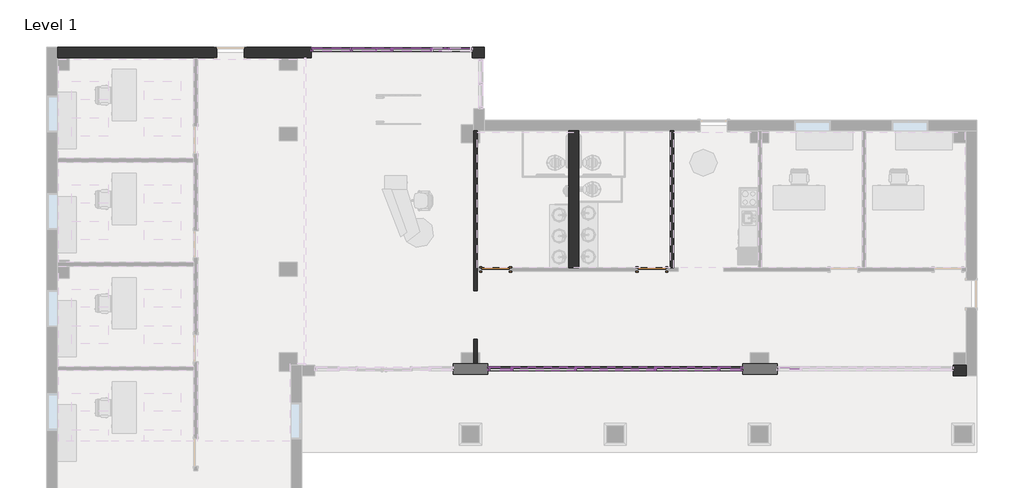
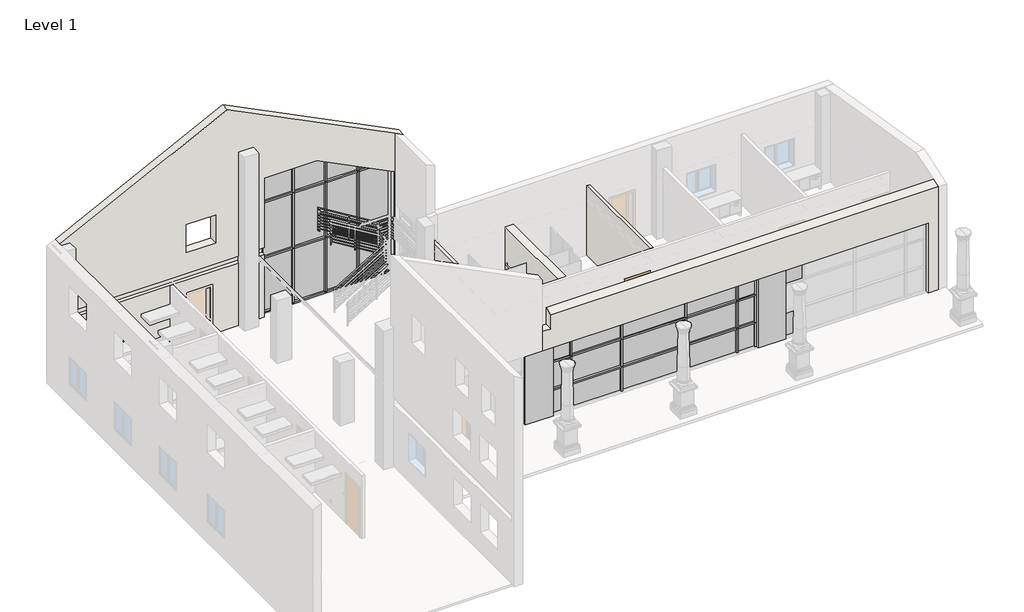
# One storey, part 2 of 8: 61 members, 31 plates, 6 walls, 2 doors.
"""IFC4 building model written with IfcOpenShell, lengths in millimetres."""

from ifc_helpers import new_model, si_unit, origin, origin_with_axes, place, context, project, spatial, polyline, outline, extrude, faceted_brep, transform, mapped, element, save
from components import door_eb9f8b14, door_88503111, member_a715cb85, member_2b49869a, member_4f1c84db, member_e69b4e5a, member_c7c5a8a0, member_13dc6413, member_3374d9b6, member_830c086e, member_f0fea5a5, member_ee409385, member_d635bea1, member_5783932f, member_ba1b3d85, member_98b79ab6, member_badecc6f, member_398e82c5, member_3ca69e07, member_e8e44c72, member_143c79e4, member_374c6745, member_8bab0767, member_1c7aa2bc, member_f444ca48, member_5247cb20, system_panel_glazed_93fe6fa7, system_panel_glazed_6ce5e085, system_panel_glazed_63f474c4, system_panel_glazed_4b691734, system_panel_glazed_53b4157c, system_panel_glazed_7b5ce646, system_panel_glazed_2dd6ead6, system_panel_glazed_6caac039, system_panel_glazed_878f6614, system_panel_glazed_8dfcc79d, system_panel_glazed_ef97d2b3, system_panel_glazed_c584759f, system_panel_glazed_aff2306c, system_panel_glazed_6eaeb95c, system_panel_glazed_87e5606a, system_panel_glazed_8c70cf02, system_panel_solid_6039f36e, system_panel_solid_0ed6c75d

model = new_model("IFC4")

# Units and contexts
model_context = context("Model", 3, world=origin())
ifc_project = project(units=[si_unit("LENGTHUNIT", "METRE", prefix="MILLI")], contexts=[model_context])

# Site, building, storey
site = spatial("IfcSite", under=ifc_project)
building = spatial("IfcBuilding", under=site)
storey = spatial("IfcBuildingStorey", under=building, Name="Level 1", Elevation=0.0)

# Doors
placement = place(None, origin())
door_shape = door_eb9f8b14(model_context)
element("IfcDoor", 1, ObjectType="Single-Flush : 36\" x 84\"", at=placement, inside=storey, context=model_context, shape_type="MappedRepresentation", body=[
    mapped(door_shape, transform((1075.2733448, 3496.4480424, 0.0), x_axis=(-1.0, 0.0, 0.0), y_axis=(0.0, -1.0, 0.0), z_axis=(0.0, 0.0, 1.0))),
])
door_2_shape = door_88503111(model_context)
element("IfcDoor", 2, ObjectType="Single-Flush : 36\" x 84\"", at=placement, inside=storey, context=model_context, shape_type="MappedRepresentation", body=[
    mapped(door_2_shape, transform((6294.9733448, 3496.4480424, 0.0), x_axis=(1.0, 0.0, 0.0), y_axis=(0.0, 1.0, 0.0), z_axis=(0.0, 0.0, 1.0))),
])

# Members
member_shape = member_a715cb85(model_context)
element("IfcMember", 3, ObjectType="Rectangular Mullion : 2.5\" x 5\" Rectangular", at=placement, inside=storey, context=model_context, shape_type="MappedRepresentation", body=[
    mapped(member_shape, transform((1611.8483448, 175.3980424, 0.0), x_axis=(1.0, 0.0, 0.0), y_axis=(0.0, -1.0, 0.0), z_axis=(0.0, 0.0, -1.0))),
])
element("IfcMember", 4, ObjectType="Rectangular Mullion : 2.5\" x 5\" Rectangular", at=placement, inside=storey, context=model_context, shape_type="MappedRepresentation", body=[
    mapped(member_shape, transform((3745.4483448, 175.3980424, 0.0), x_axis=(1.0, 0.0, 0.0), y_axis=(0.0, -1.0, 0.0), z_axis=(0.0, 0.0, -1.0))),
])
element("IfcMember", 5, ObjectType="Rectangular Mullion : 2.5\" x 5\" Rectangular", at=placement, inside=storey, context=model_context, shape_type="MappedRepresentation", body=[
    mapped(member_shape, transform((6404.5108448, 175.3980424, 0.0), x_axis=(1.0, 0.0, 0.0), y_axis=(0.0, -1.0, 0.0), z_axis=(0.0, 0.0, -1.0))),
])
element("IfcMember", 6, ObjectType="Rectangular Mullion : 2.5\" x 5\" Rectangular", at=placement, inside=storey, context=model_context, shape_type="MappedRepresentation", body=[
    mapped(member_shape, transform((849.8483448, 175.3980424, 0.0), x_axis=(1.0, 0.0, 0.0), y_axis=(0.0, -1.0, 0.0), z_axis=(0.0, 0.0, -1.0))),
])
element("IfcMember", 7, ObjectType="Rectangular Mullion : 2.5\" x 5\" Rectangular", at=placement, inside=storey, context=model_context, shape_type="MappedRepresentation", body=[
    mapped(member_shape, transform((8538.1108448, 175.3980424, 0.0), x_axis=(1.0, 0.0, 0.0), y_axis=(0.0, -1.0, 0.0), z_axis=(0.0, 0.0, -1.0))),
])
element("IfcMember", 8, ObjectType="Rectangular Mullion : 2.5\" x 5\" Rectangular", at=placement, inside=storey, context=model_context, shape_type="MappedRepresentation", body=[
    mapped(member_shape, transform((9300.1108448, 175.3980424, 0.0), x_axis=(1.0, 0.0, 0.0), y_axis=(0.0, -1.0, 0.0), z_axis=(0.0, 0.0, -1.0))),
])
member_2_shape = member_2b49869a(model_context)
element("IfcMember", 9, ObjectType="Rectangular Mullion : 2.5\" x 5\" Rectangular", at=placement, inside=storey, context=model_context, shape_type="MappedRepresentation", body=[
    mapped(member_2_shape, transform((1611.8483448, 175.3980424, 1066.8), x_axis=(1.0, 0.0, 0.0), y_axis=(0.0, -1.0, 0.0), z_axis=(0.0, 0.0, -1.0))),
])
element("IfcMember", 10, ObjectType="Rectangular Mullion : 2.5\" x 5\" Rectangular", at=placement, inside=storey, context=model_context, shape_type="MappedRepresentation", body=[
    mapped(member_2_shape, transform((3745.4483448, 175.3980424, 1066.8), x_axis=(1.0, 0.0, 0.0), y_axis=(0.0, -1.0, 0.0), z_axis=(0.0, 0.0, -1.0))),
])
element("IfcMember", 11, ObjectType="Rectangular Mullion : 2.5\" x 5\" Rectangular", at=placement, inside=storey, context=model_context, shape_type="MappedRepresentation", body=[
    mapped(member_2_shape, transform((6404.5108448, 175.3980424, 1066.8), x_axis=(1.0, 0.0, 0.0), y_axis=(0.0, -1.0, 0.0), z_axis=(0.0, 0.0, -1.0))),
])
element("IfcMember", 12, ObjectType="Rectangular Mullion : 2.5\" x 5\" Rectangular", at=placement, inside=storey, context=model_context, shape_type="MappedRepresentation", body=[
    mapped(member_2_shape, transform((849.8483448, 175.3980424, 1066.8), x_axis=(1.0, 0.0, 0.0), y_axis=(0.0, -1.0, 0.0), z_axis=(0.0, 0.0, -1.0))),
])
element("IfcMember", 13, ObjectType="Rectangular Mullion : 2.5\" x 5\" Rectangular", at=placement, inside=storey, context=model_context, shape_type="MappedRepresentation", body=[
    mapped(member_2_shape, transform((8538.1108448, 175.3980424, 1066.8), x_axis=(1.0, 0.0, 0.0), y_axis=(0.0, -1.0, 0.0), z_axis=(0.0, 0.0, -1.0))),
])
element("IfcMember", 14, ObjectType="Rectangular Mullion : 2.5\" x 5\" Rectangular", at=placement, inside=storey, context=model_context, shape_type="MappedRepresentation", body=[
    mapped(member_2_shape, transform((9300.1108448, 175.3980424, 1066.8), x_axis=(1.0, 0.0, 0.0), y_axis=(0.0, -1.0, 0.0), z_axis=(0.0, 0.0, -1.0))),
])
member_3_shape = member_4f1c84db(model_context)
element("IfcMember", 15, ObjectType="Rectangular Mullion : 2.5\" x 5\" Rectangular", at=placement, inside=storey, context=model_context, shape_type="MappedRepresentation", body=[
    mapped(member_3_shape, transform((3713.6983448, 175.3980424, 2286.0), x_axis=(0.0, 0.0, 1.0), y_axis=(0.0, -1.0, 0.0), z_axis=(1.0, 0.0, 0.0))),
])
element("IfcMember", 16, ObjectType="Rectangular Mullion : 2.5\" x 5\" Rectangular", at=placement, inside=storey, context=model_context, shape_type="MappedRepresentation", body=[
    mapped(member_3_shape, transform((8506.3608448, 175.3980424, 2286.0), x_axis=(0.0, 0.0, 1.0), y_axis=(0.0, -1.0, 0.0), z_axis=(1.0, 0.0, 0.0))),
])
element("IfcMember", 17, ObjectType="Rectangular Mullion : 2.5\" x 5\" Rectangular", at=placement, inside=storey, context=model_context, shape_type="MappedRepresentation", body=[
    mapped(member_3_shape, transform((8506.3608448, 175.3980424, 1066.8), x_axis=(0.0, 0.0, 1.0), y_axis=(0.0, -1.0, 0.0), z_axis=(1.0, 0.0, 0.0))),
])
element("IfcMember", 18, ObjectType="Rectangular Mullion : 2.5\" x 5\" Rectangular", at=placement, inside=storey, context=model_context, shape_type="MappedRepresentation", body=[
    mapped(member_3_shape, transform((3713.6983448, 175.3980424, 1066.8), x_axis=(0.0, 0.0, 1.0), y_axis=(0.0, -1.0, 0.0), z_axis=(1.0, 0.0, 0.0))),
])
member_4_shape = member_e69b4e5a(model_context)
element("IfcMember", 19, ObjectType="Rectangular Mullion : 2.5\" x 5\" Rectangular", at=placement, inside=storey, context=model_context, shape_type="MappedRepresentation", body=[
    mapped(member_4_shape, transform((6372.7608448, 175.3980424, 2286.0), x_axis=(0.0, 0.0, 1.0), y_axis=(0.0, -1.0, 0.0), z_axis=(1.0, 0.0, 0.0))),
])
element("IfcMember", 20, ObjectType="Rectangular Mullion : 2.5\" x 5\" Rectangular", at=placement, inside=storey, context=model_context, shape_type="MappedRepresentation", body=[
    mapped(member_4_shape, transform((6372.7608448, 175.3980424, 1066.8), x_axis=(0.0, 0.0, 1.0), y_axis=(0.0, -1.0, 0.0), z_axis=(1.0, 0.0, 0.0))),
])
member_5_shape = member_c7c5a8a0(model_context)
element("IfcMember", 21, ObjectType="Rectangular Mullion : 2.5\" x 5\" Rectangular", at=placement, inside=storey, context=model_context, shape_type="MappedRepresentation", body=[
    mapped(member_5_shape, transform((1580.0983448, 175.3980424, 2286.0), x_axis=(0.0, 0.0, 1.0), y_axis=(0.0, -1.0, 0.0), z_axis=(1.0, 0.0, 0.0))),
])
element("IfcMember", 22, ObjectType="Rectangular Mullion : 2.5\" x 5\" Rectangular", at=placement, inside=storey, context=model_context, shape_type="MappedRepresentation", body=[
    mapped(member_5_shape, transform((9268.3608448, 175.3980424, 2286.0), x_axis=(0.0, 0.0, 1.0), y_axis=(0.0, -1.0, 0.0), z_axis=(1.0, 0.0, 0.0))),
])
element("IfcMember", 23, ObjectType="Rectangular Mullion : 2.5\" x 5\" Rectangular", at=placement, inside=storey, context=model_context, shape_type="MappedRepresentation", body=[
    mapped(member_5_shape, transform((1580.0983448, 175.3980424, 1066.8), x_axis=(0.0, 0.0, 1.0), y_axis=(0.0, -1.0, 0.0), z_axis=(1.0, 0.0, 0.0))),
])
element("IfcMember", 24, ObjectType="Rectangular Mullion : 2.5\" x 5\" Rectangular", at=placement, inside=storey, context=model_context, shape_type="MappedRepresentation", body=[
    mapped(member_5_shape, transform((9268.3608448, 175.3980424, 1066.8), x_axis=(0.0, 0.0, 1.0), y_axis=(0.0, -1.0, 0.0), z_axis=(1.0, 0.0, 0.0))),
])
member_6_shape = member_13dc6413(model_context)
element("IfcMember", 25, ObjectType="Rectangular Mullion : 2.5\" x 5\" Rectangular", at=placement, inside=storey, context=model_context, shape_type="MappedRepresentation", body=[
    mapped(member_6_shape, transform((9331.8608448, 175.3980424, 3060.0), x_axis=(0.0, 0.0, 1.0), y_axis=(0.0, -1.0, 0.0), z_axis=(1.0, 0.0, 0.0))),
])
element("IfcMember", 26, ObjectType="Rectangular Mullion : 2.5\" x 5\" Rectangular", at=placement, inside=storey, context=model_context, shape_type="MappedRepresentation", body=[
    mapped(member_6_shape, transform((1611.8483448, 175.3980424, 3060.0), x_axis=(0.0, 0.0, 1.0), y_axis=(0.0, -1.0, 0.0), z_axis=(1.0, 0.0, 0.0))),
])
member_7_shape = member_3374d9b6(model_context)
element("IfcMember", 27, ObjectType="Rectangular Mullion : 2.5\" x 5\" Rectangular", at=placement, inside=storey, context=model_context, shape_type="MappedRepresentation", body=[
    mapped(member_7_shape, transform((3745.4483448, 175.3980424, 3060.0), x_axis=(0.0, 0.0, 1.0), y_axis=(0.0, -1.0, 0.0), z_axis=(1.0, 0.0, 0.0))),
])
element("IfcMember", 28, ObjectType="Rectangular Mullion : 2.5\" x 5\" Rectangular", at=placement, inside=storey, context=model_context, shape_type="MappedRepresentation", body=[
    mapped(member_7_shape, transform((8538.1108448, 175.3980424, 3060.0), x_axis=(0.0, 0.0, 1.0), y_axis=(0.0, -1.0, 0.0), z_axis=(1.0, 0.0, 0.0))),
])
member_8_shape = member_830c086e(model_context)
element("IfcMember", 29, ObjectType="Rectangular Mullion : 2.5\" x 5\" Rectangular", at=placement, inside=storey, context=model_context, shape_type="MappedRepresentation", body=[
    mapped(member_8_shape, transform((6404.5108448, 175.3980424, 3060.0), x_axis=(0.0, 0.0, 1.0), y_axis=(0.0, -1.0, 0.0), z_axis=(1.0, 0.0, 0.0))),
])
member_9_shape = member_f0fea5a5(model_context)
element("IfcMember", 30, ObjectType="Rectangular Mullion : 2.5\" x 5\" Rectangular", at=placement, inside=storey, context=model_context, shape_type="MappedRepresentation", body=[
    mapped(member_9_shape, transform((-3747.5516552, 10846.5730424, 0.0), x_axis=(1.0, 0.0, 0.0), y_axis=(0.0, -1.0, 0.0), z_axis=(0.0, 0.0, -1.0))),
])
element("IfcMember", 31, ObjectType="Rectangular Mullion : 2.5\" x 5\" Rectangular", at=placement, inside=storey, context=model_context, shape_type="MappedRepresentation", body=[
    mapped(member_9_shape, transform((-2401.3516552, 10846.5730424, 0.0), x_axis=(1.0, 0.0, 0.0), y_axis=(0.0, -1.0, 0.0), z_axis=(0.0, 0.0, -1.0))),
])
element("IfcMember", 32, ObjectType="Rectangular Mullion : 2.5\" x 5\" Rectangular", at=placement, inside=storey, context=model_context, shape_type="MappedRepresentation", body=[
    mapped(member_9_shape, transform((-1055.1516552, 10846.5730424, 0.0), x_axis=(1.0, 0.0, 0.0), y_axis=(0.0, -1.0, 0.0), z_axis=(0.0, 0.0, -1.0))),
])
member_10_shape = member_ee409385(model_context)
element("IfcMember", 33, ObjectType="Rectangular Mullion : 2.5\" x 5\" Rectangular", at=placement, inside=storey, context=model_context, shape_type="MappedRepresentation", body=[
    mapped(member_10_shape, transform((-5093.7516552, 10846.5730424, 2438.4), x_axis=(-1.0, 0.0, 0.0), y_axis=(0.0, -1.0, 0.0), z_axis=(0.0, 0.0, 1.0))),
])
member_11_shape = member_d635bea1(model_context)
element("IfcMember", 34, ObjectType="Rectangular Mullion : 2.5\" x 5\" Rectangular", at=placement, inside=storey, context=model_context, shape_type="MappedRepresentation", body=[
    mapped(member_11_shape, transform((-5030.2516552, 10846.5730424, 0.0), x_axis=(0.0, 0.0, -1.0), y_axis=(0.0, -1.0, 0.0), z_axis=(-1.0, 0.0, 0.0))),
])
element("IfcMember", 35, ObjectType="Rectangular Mullion : 2.5\" x 5\" Rectangular", at=placement, inside=storey, context=model_context, shape_type="MappedRepresentation", body=[
    mapped(member_11_shape, transform((-1023.4016552, 10846.5730424, 0.0), x_axis=(0.0, 0.0, -1.0), y_axis=(0.0, -1.0, 0.0), z_axis=(-1.0, 0.0, 0.0))),
])
member_12_shape = member_5783932f(model_context)
element("IfcMember", 36, ObjectType="Rectangular Mullion : 2.5\" x 5\" Rectangular", at=placement, inside=storey, context=model_context, shape_type="MappedRepresentation", body=[
    mapped(member_12_shape, transform((-3715.8016552, 10846.5730424, 0.0), x_axis=(0.0, 0.0, -1.0), y_axis=(0.0, -1.0, 0.0), z_axis=(-1.0, 0.0, 0.0))),
])
element("IfcMember", 37, ObjectType="Rectangular Mullion : 2.5\" x 5\" Rectangular", at=placement, inside=storey, context=model_context, shape_type="MappedRepresentation", body=[
    mapped(member_12_shape, transform((-2369.6016552, 10846.5730424, 0.0), x_axis=(0.0, 0.0, -1.0), y_axis=(0.0, -1.0, 0.0), z_axis=(-1.0, 0.0, 0.0))),
])
member_13_shape = member_ba1b3d85(model_context)
element("IfcMember", 38, ObjectType="Rectangular Mullion : 2.5\" x 5\" Rectangular", at=placement, inside=storey, context=model_context, shape_type="MappedRepresentation", body=[
    mapped(member_13_shape, transform((-3779.3016552, 10846.5730424, 2438.4), x_axis=(0.0, 0.0, 1.0), y_axis=(0.0, -1.0, 0.0), z_axis=(1.0, 0.0, 0.0))),
])
element("IfcMember", 39, ObjectType="Rectangular Mullion : 2.5\" x 5\" Rectangular", at=placement, inside=storey, context=model_context, shape_type="MappedRepresentation", body=[
    mapped(member_13_shape, transform((-3779.3016552, 10846.5730424, 4876.8), x_axis=(0.0, 0.0, 1.0), y_axis=(0.0, -1.0, 0.0), z_axis=(1.0, 0.0, 0.0))),
])
member_14_shape = member_98b79ab6(model_context)
element("IfcMember", 40, ObjectType="Rectangular Mullion : 2.5\" x 5\" Rectangular", at=placement, inside=storey, context=model_context, shape_type="MappedRepresentation", body=[
    mapped(member_14_shape, transform((-2433.1016552, 10846.5730424, 2438.4), x_axis=(0.0, 0.0, 1.0), y_axis=(0.0, -1.0, 0.0), z_axis=(1.0, 0.0, 0.0))),
])
element("IfcMember", 41, ObjectType="Rectangular Mullion : 2.5\" x 5\" Rectangular", at=placement, inside=storey, context=model_context, shape_type="MappedRepresentation", body=[
    mapped(member_14_shape, transform((-1086.9016552, 10846.5730424, 2438.4), x_axis=(0.0, 0.0, 1.0), y_axis=(0.0, -1.0, 0.0), z_axis=(1.0, 0.0, 0.0))),
])
element("IfcMember", 42, ObjectType="Rectangular Mullion : 2.5\" x 5\" Rectangular", at=placement, inside=storey, context=model_context, shape_type="MappedRepresentation", body=[
    mapped(member_14_shape, transform((-2433.1016552, 10846.5730424, 4876.8), x_axis=(0.0, 0.0, 1.0), y_axis=(0.0, -1.0, 0.0), z_axis=(1.0, 0.0, 0.0))),
])
element("IfcMember", 43, ObjectType="Rectangular Mullion : 2.5\" x 5\" Rectangular", at=placement, inside=storey, context=model_context, shape_type="MappedRepresentation", body=[
    mapped(member_14_shape, transform((-1086.9016552, 10846.5730424, 4876.8), x_axis=(0.0, 0.0, 1.0), y_axis=(0.0, -1.0, 0.0), z_axis=(1.0, 0.0, 0.0))),
])
element("IfcMember", 44, ObjectType="Rectangular Mullion : 2.5\" x 5\" Rectangular", at=placement, inside=storey, context=model_context, shape_type="MappedRepresentation", body=[
    mapped(member_11_shape, transform((-3779.3016552, 10846.5730424, 6108.0), x_axis=(0.0, 0.0, 1.0), y_axis=(0.0, -1.0, 0.0), z_axis=(1.0, 0.0, 0.0))),
])
element("IfcMember", 45, ObjectType="Rectangular Mullion : 2.5\" x 5\" Rectangular", at=placement, inside=storey, context=model_context, shape_type="MappedRepresentation", body=[
    mapped(member_9_shape, transform((-3747.5516552, 10846.5730424, 2438.4), x_axis=(1.0, 0.0, 0.0), y_axis=(0.0, -1.0, 0.0), z_axis=(0.0, 0.0, -1.0))),
])
element("IfcMember", 46, ObjectType="Rectangular Mullion : 2.5\" x 5\" Rectangular", at=placement, inside=storey, context=model_context, shape_type="MappedRepresentation", body=[
    mapped(member_9_shape, transform((-2401.3516552, 10846.5730424, 2438.4), x_axis=(1.0, 0.0, 0.0), y_axis=(0.0, -1.0, 0.0), z_axis=(0.0, 0.0, -1.0))),
])
element("IfcMember", 47, ObjectType="Rectangular Mullion : 2.5\" x 5\" Rectangular", at=placement, inside=storey, context=model_context, shape_type="MappedRepresentation", body=[
    mapped(member_9_shape, transform((-1055.1516552, 10846.5730424, 2438.4), x_axis=(1.0, 0.0, 0.0), y_axis=(0.0, -1.0, 0.0), z_axis=(0.0, 0.0, -1.0))),
])
element("IfcMember", 48, ObjectType="Rectangular Mullion : 2.5\" x 5\" Rectangular", at=placement, inside=storey, context=model_context, shape_type="MappedRepresentation", body=[
    mapped(member_10_shape, transform((-5093.7516552, 10846.5730424, 4876.8), x_axis=(-1.0, 0.0, 0.0), y_axis=(0.0, -1.0, 0.0), z_axis=(0.0, 0.0, 1.0))),
])
member_15_shape = member_badecc6f(model_context)
element("IfcMember", 49, ObjectType="Rectangular Mullion : 2.5\" x 5\" Rectangular", at=placement, inside=storey, context=model_context, shape_type="MappedRepresentation", body=[
    mapped(member_15_shape, transform((-2900.8192529, 10846.5730424, 6108.0), x_axis=(0.0, 0.0, 1.0), y_axis=(0.0, -1.0, 0.0), z_axis=(1.0, 0.0, 0.0))),
])
member_16_shape = member_398e82c5(model_context)
element("IfcMember", 50, ObjectType="Rectangular Mullion : 2.5\" x 5\" Rectangular", at=placement, inside=storey, context=model_context, shape_type="MappedRepresentation", body=[
    mapped(member_16_shape, transform((-2401.3516552, 10846.5730424, 5858.2662011), x_axis=(0.4472135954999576, 0.0, 0.8944271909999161), y_axis=(0.0, -1.0, 0.0), z_axis=(0.8944271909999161, 0.0, -0.4472135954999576))),
])
member_17_shape = member_3ca69e07(model_context)
element("IfcMember", 51, ObjectType="Rectangular Mullion : 2.5\" x 5\" Rectangular", at=placement, inside=storey, context=model_context, shape_type="MappedRepresentation", body=[
    mapped(member_17_shape, transform((1611.8483448, 175.3980424, 2286.0), x_axis=(1.0, 0.0, 0.0), y_axis=(0.0, -1.0, 0.0), z_axis=(0.0, 0.0, -1.0))),
])
element("IfcMember", 52, ObjectType="Rectangular Mullion : 2.5\" x 5\" Rectangular", at=placement, inside=storey, context=model_context, shape_type="MappedRepresentation", body=[
    mapped(member_17_shape, transform((3745.4483448, 175.3980424, 2286.0), x_axis=(1.0, 0.0, 0.0), y_axis=(0.0, -1.0, 0.0), z_axis=(0.0, 0.0, -1.0))),
])
element("IfcMember", 53, ObjectType="Rectangular Mullion : 2.5\" x 5\" Rectangular", at=placement, inside=storey, context=model_context, shape_type="MappedRepresentation", body=[
    mapped(member_17_shape, transform((6404.5108448, 175.3980424, 2286.0), x_axis=(1.0, 0.0, 0.0), y_axis=(0.0, -1.0, 0.0), z_axis=(0.0, 0.0, -1.0))),
])
element("IfcMember", 54, ObjectType="Rectangular Mullion : 2.5\" x 5\" Rectangular", at=placement, inside=storey, context=model_context, shape_type="MappedRepresentation", body=[
    mapped(member_17_shape, transform((849.8483448, 175.3980424, 2286.0), x_axis=(1.0, 0.0, 0.0), y_axis=(0.0, -1.0, 0.0), z_axis=(0.0, 0.0, -1.0))),
])
element("IfcMember", 55, ObjectType="Rectangular Mullion : 2.5\" x 5\" Rectangular", at=placement, inside=storey, context=model_context, shape_type="MappedRepresentation", body=[
    mapped(member_17_shape, transform((8538.1108448, 175.3980424, 2286.0), x_axis=(1.0, 0.0, 0.0), y_axis=(0.0, -1.0, 0.0), z_axis=(0.0, 0.0, -1.0))),
])
element("IfcMember", 56, ObjectType="Rectangular Mullion : 2.5\" x 5\" Rectangular", at=placement, inside=storey, context=model_context, shape_type="MappedRepresentation", body=[
    mapped(member_17_shape, transform((9300.1108448, 175.3980424, 2286.0), x_axis=(1.0, 0.0, 0.0), y_axis=(0.0, -1.0, 0.0), z_axis=(0.0, 0.0, -1.0))),
])
member_18_shape = member_e8e44c72(model_context)
element("IfcMember", 57, ObjectType="Rectangular Mullion : 2.5\" x 5\" Rectangular", at=placement, inside=storey, context=model_context, shape_type="MappedRepresentation", body=[
    mapped(member_18_shape, transform((-3747.5516552, 10846.5730424, 4876.8), x_axis=(1.0, 0.0, 0.0), y_axis=(0.0, -1.0, 0.0), z_axis=(0.0, 0.0, -1.0))),
])
member_19_shape = member_143c79e4(model_context)
element("IfcMember", 58, ObjectType="Rectangular Mullion : 2.5\" x 5\" Rectangular", at=placement, inside=storey, context=model_context, shape_type="MappedRepresentation", body=[
    mapped(member_19_shape, transform((-2401.3516552, 10846.5730424, 4876.8), x_axis=(1.0, 0.0, 0.0), y_axis=(0.0, -1.0, 0.0), z_axis=(0.0, 0.0, -1.0))),
])
member_20_shape = member_374c6745(model_context)
element("IfcMember", 59, ObjectType="Rectangular Mullion : 2.5\" x 5\" Rectangular", at=placement, inside=storey, context=model_context, shape_type="MappedRepresentation", body=[
    mapped(member_20_shape, transform((-1055.1516552, 10846.5730424, 4876.8), x_axis=(1.0, 0.0, 0.0), y_axis=(0.0, -1.0, 0.0), z_axis=(0.0, 0.0, -1.0))),
])
member_21_shape = member_8bab0767(model_context)
element("IfcMember", 60, ObjectType="Rectangular Mullion : 2.5\" x 5\" Rectangular", at=placement, inside=storey, context=model_context, shape_type="MappedRepresentation", body=[
    mapped(member_21_shape, transform((-438.4192529, 10846.5730424, 4876.8), x_axis=(0.0, 0.0, 1.0), y_axis=(0.0, -1.0, 0.0), z_axis=(1.0, 0.0, 0.0))),
])
member_22_shape = member_1c7aa2bc(model_context)
element("IfcMember", 61, ObjectType="Rectangular Mullion : 2.5\" x 5\" Rectangular", at=placement, inside=storey, context=model_context, shape_type="MappedRepresentation", body=[
    mapped(member_22_shape, transform((-1055.1516552, 10846.5730424, 5185.1662011), x_axis=(0.44721359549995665, 0.0, 0.8944271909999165), y_axis=(0.0, -1.0, 0.0), z_axis=(0.8944271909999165, 0.0, -0.44721359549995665))),
])
member_23_shape = member_f444ca48(model_context)
element("IfcMember", 62, ObjectType="Rectangular Mullion : 2.5\" x 5\" Rectangular", at=placement, inside=storey, context=model_context, shape_type="MappedRepresentation", body=[
    mapped(member_23_shape, transform((-438.4192529, 10846.5730424, 4876.8), x_axis=(0.4472135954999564, 0.0, 0.8944271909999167), y_axis=(0.0, -1.0, 0.0), z_axis=(0.8944271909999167, 0.0, -0.4472135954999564))),
])
member_24_shape = member_5247cb20(model_context)
element("IfcMember", 63, ObjectType="Rectangular Mullion : 2.5\" x 5\" Rectangular", at=placement, inside=storey, context=model_context, shape_type="MappedRepresentation", body=[
    mapped(member_24_shape, transform((-5093.7516552, 10846.5730424, 6108.0), x_axis=(-1.0, 0.0, 0.0), y_axis=(0.0, -1.0, 0.0), z_axis=(0.0, 0.0, 1.0))),
])

# Plates
element("IfcPlate", 64, ObjectType="Exterior - Brick on Mtl. Stud", at=placement, inside=storey, context=model_context, shape_type="Brep", body=[
    faceted_brep([(-337.6016552, -0.8144576, 0.0), (818.0983448, -0.8144576, 0.0), (818.0983448, -0.8144576, 3060.0), (-337.6016552, -0.8144576, 3060.0), (-337.6016552, 351.6105424, 0.0), (-337.6016552, 351.6105424, 3060.0), (-67.7266552, 351.6105424, 3060.0), (341.8483448, 351.6105424, 3060.0), (465.6733448, 351.6105424, 3060.0), (541.8733448, 351.6105424, 3060.0), (818.0983448, 351.6105424, 3060.0), (818.0983448, 351.6105424, 0.0), (541.8733448, 351.6105424, 0.0), (465.6733448, 351.6105424, 0.0), (341.8483448, 351.6105424, 0.0), (-67.7266552, 351.6105424, 0.0)], [[[0, 1, 2, 3]], [[4, 5, 6, 7, 8, 9, 10, 11, 12, 13, 14, 15]], [[1, 0, 4, 15, 14, 13, 12, 11]], [[2, 1, 11, 10]], [[3, 2, 10, 9, 8, 7, 6, 5]], [[0, 3, 5, 4]]]),
])
element("IfcPlate", 65, ObjectType="Exterior - Brick on Mtl. Stud", at=placement, inside=storey, context=model_context, shape_type="Brep", body=[
    faceted_brep([(9331.8608448, -0.8144576, 0.0), (10487.5608448, -0.8144576, 0.0), (10487.5608448, -0.8144576, 3060.0), (9331.8608448, -0.8144576, 3060.0), (9331.8608448, 351.6105424, 0.0), (9331.8608448, 351.6105424, 3060.0), (9587.4483448, 351.6105424, 3060.0), (10197.0483448, 351.6105424, 3060.0), (10487.5608448, 351.6105424, 3060.0), (10487.5608448, 351.6105424, 0.0), (10197.0483448, 351.6105424, 0.0), (9587.4483448, 351.6105424, 0.0)], [[[0, 1, 2, 3]], [[4, 5, 6, 7, 8, 9, 10, 11]], [[1, 0, 4, 11, 10, 9]], [[2, 1, 9, 8]], [[3, 2, 8, 7, 6, 5]], [[0, 3, 5, 4]]]),
])
system_panel_glazed_shape = system_panel_glazed_93fe6fa7(model_context)
element("IfcPlate", 66, ObjectType="System Panel : Glazed", at=placement, inside=storey, context=model_context, shape_type="MappedRepresentation", body=[
    mapped(system_panel_glazed_shape, transform((2678.6483448, 175.3980424, 0.0), x_axis=(1.0, 0.0, 0.0), y_axis=(0.0, 1.0, 0.0), z_axis=(0.0, 0.0, 1.0))),
])
element("IfcPlate", 67, ObjectType="System Panel : Glazed", at=placement, inside=storey, context=model_context, shape_type="MappedRepresentation", body=[
    mapped(system_panel_glazed_shape, transform((7471.3108448, 175.3980424, 0.0), x_axis=(1.0, 0.0, 0.0), y_axis=(0.0, 1.0, 0.0), z_axis=(0.0, 0.0, 1.0))),
])
system_panel_glazed_2_shape = system_panel_glazed_6ce5e085(model_context)
element("IfcPlate", 68, ObjectType="System Panel : Glazed", at=placement, inside=storey, context=model_context, shape_type="MappedRepresentation", body=[
    mapped(system_panel_glazed_2_shape, transform((2678.6483448, 175.3980424, 1098.55), x_axis=(1.0, 0.0, 0.0), y_axis=(0.0, 1.0, 0.0), z_axis=(0.0, 0.0, 1.0))),
])
element("IfcPlate", 69, ObjectType="System Panel : Glazed", at=placement, inside=storey, context=model_context, shape_type="MappedRepresentation", body=[
    mapped(system_panel_glazed_2_shape, transform((7471.3108448, 175.3980424, 1098.55), x_axis=(1.0, 0.0, 0.0), y_axis=(0.0, 1.0, 0.0), z_axis=(0.0, 0.0, 1.0))),
])
system_panel_glazed_3_shape = system_panel_glazed_63f474c4(model_context)
element("IfcPlate", 70, ObjectType="System Panel : Glazed", at=placement, inside=storey, context=model_context, shape_type="MappedRepresentation", body=[
    mapped(system_panel_glazed_3_shape, transform((5074.9795948, 175.3980424, 0.0), x_axis=(1.0, 0.0, 0.0), y_axis=(0.0, 1.0, 0.0), z_axis=(0.0, 0.0, 1.0))),
])
system_panel_glazed_4_shape = system_panel_glazed_4b691734(model_context)
element("IfcPlate", 71, ObjectType="System Panel : Glazed", at=placement, inside=storey, context=model_context, shape_type="MappedRepresentation", body=[
    mapped(system_panel_glazed_4_shape, transform((5074.9795948, 175.3980424, 1098.55), x_axis=(1.0, 0.0, 0.0), y_axis=(0.0, 1.0, 0.0), z_axis=(0.0, 0.0, 1.0))),
])
system_panel_glazed_5_shape = system_panel_glazed_53b4157c(model_context)
element("IfcPlate", 72, ObjectType="System Panel : Glazed", at=placement, inside=storey, context=model_context, shape_type="MappedRepresentation", body=[
    mapped(system_panel_glazed_5_shape, transform((1230.8483448, 175.3980424, 0.0), x_axis=(1.0, 0.0, 0.0), y_axis=(0.0, 1.0, 0.0), z_axis=(0.0, 0.0, 1.0))),
])
element("IfcPlate", 73, ObjectType="System Panel : Glazed", at=placement, inside=storey, context=model_context, shape_type="MappedRepresentation", body=[
    mapped(system_panel_glazed_5_shape, transform((10900.3108448, 175.3980424, 0.0), x_axis=(1.0, 0.0, 0.0), y_axis=(0.0, 1.0, 0.0), z_axis=(0.0, 0.0, 1.0))),
])
element("IfcPlate", 74, ObjectType="System Panel : Glazed", at=placement, inside=storey, context=model_context, shape_type="MappedRepresentation", body=[
    mapped(system_panel_glazed_5_shape, transform((8919.1108448, 175.3980424, 0.0), x_axis=(1.0, 0.0, 0.0), y_axis=(0.0, 1.0, 0.0), z_axis=(0.0, 0.0, 1.0))),
])
system_panel_glazed_6_shape = system_panel_glazed_7b5ce646(model_context)
element("IfcPlate", 75, ObjectType="System Panel : Glazed", at=placement, inside=storey, context=model_context, shape_type="MappedRepresentation", body=[
    mapped(system_panel_glazed_6_shape, transform((1230.8483448, 175.3980424, 1098.55), x_axis=(1.0, 0.0, 0.0), y_axis=(0.0, 1.0, 0.0), z_axis=(0.0, 0.0, 1.0))),
])
element("IfcPlate", 76, ObjectType="System Panel : Glazed", at=placement, inside=storey, context=model_context, shape_type="MappedRepresentation", body=[
    mapped(system_panel_glazed_6_shape, transform((8919.1108448, 175.3980424, 1098.55), x_axis=(1.0, 0.0, 0.0), y_axis=(0.0, 1.0, 0.0), z_axis=(0.0, 0.0, 1.0))),
])
system_panel_glazed_7_shape = system_panel_glazed_2dd6ead6(model_context)
element("IfcPlate", 77, ObjectType="System Panel : Glazed", at=placement, inside=storey, context=model_context, shape_type="MappedRepresentation", body=[
    mapped(system_panel_glazed_7_shape, transform((-4404.7766552, 10846.5730424, 63.5), x_axis=(1.0, 0.0, 0.0), y_axis=(0.0, 1.0, 0.0), z_axis=(0.0, 0.0, 1.0))),
])
element("IfcPlate", 78, ObjectType="System Panel : Glazed", at=placement, inside=storey, context=model_context, shape_type="MappedRepresentation", body=[
    mapped(system_panel_glazed_7_shape, transform((-397.9266552, 10846.5730424, 63.5), x_axis=(1.0, 0.0, 0.0), y_axis=(0.0, 1.0, 0.0), z_axis=(0.0, 0.0, 1.0))),
])
system_panel_glazed_8_shape = system_panel_glazed_6caac039(model_context)
element("IfcPlate", 79, ObjectType="System Panel : Glazed", at=placement, inside=storey, context=model_context, shape_type="MappedRepresentation", body=[
    mapped(system_panel_glazed_8_shape, transform((-3074.4516552, 10846.5730424, 63.5), x_axis=(1.0, 0.0, 0.0), y_axis=(0.0, 1.0, 0.0), z_axis=(0.0, 0.0, 1.0))),
])
element("IfcPlate", 80, ObjectType="System Panel : Glazed", at=placement, inside=storey, context=model_context, shape_type="MappedRepresentation", body=[
    mapped(system_panel_glazed_8_shape, transform((-1728.2516552, 10846.5730424, 63.5), x_axis=(1.0, 0.0, 0.0), y_axis=(0.0, 1.0, 0.0), z_axis=(0.0, 0.0, 1.0))),
])
system_panel_glazed_9_shape = system_panel_glazed_878f6614(model_context)
element("IfcPlate", 81, ObjectType="System Panel : Glazed", at=placement, inside=storey, context=model_context, shape_type="MappedRepresentation", body=[
    mapped(system_panel_glazed_9_shape, transform((-4404.7766552, 10846.5730424, 2470.15), x_axis=(1.0, 0.0, 0.0), y_axis=(0.0, 1.0, 0.0), z_axis=(0.0, 0.0, 1.0))),
])
system_panel_glazed_10_shape = system_panel_glazed_8dfcc79d(model_context)
element("IfcPlate", 82, ObjectType="System Panel : Glazed", at=placement, inside=storey, context=model_context, shape_type="MappedRepresentation", body=[
    mapped(system_panel_glazed_10_shape, transform((-3074.4516552, 10846.5730424, 2470.15), x_axis=(1.0, 0.0, 0.0), y_axis=(0.0, 1.0, 0.0), z_axis=(0.0, 0.0, 1.0))),
])
element("IfcPlate", 83, ObjectType="System Panel : Glazed", at=placement, inside=storey, context=model_context, shape_type="MappedRepresentation", body=[
    mapped(system_panel_glazed_10_shape, transform((-1728.2516552, 10846.5730424, 2470.15), x_axis=(1.0, 0.0, 0.0), y_axis=(0.0, 1.0, 0.0), z_axis=(0.0, 0.0, 1.0))),
])
system_panel_glazed_11_shape = system_panel_glazed_ef97d2b3(model_context)
element("IfcPlate", 84, ObjectType="System Panel : Glazed", at=placement, inside=storey, context=model_context, shape_type="MappedRepresentation", body=[
    mapped(system_panel_glazed_11_shape, transform((2678.6483448, 175.3980424, 2317.75), x_axis=(1.0, 0.0, 0.0), y_axis=(0.0, 1.0, 0.0), z_axis=(0.0, 0.0, 1.0))),
])
element("IfcPlate", 85, ObjectType="System Panel : Glazed", at=placement, inside=storey, context=model_context, shape_type="MappedRepresentation", body=[
    mapped(system_panel_glazed_11_shape, transform((7471.3108448, 175.3980424, 2317.75), x_axis=(1.0, 0.0, 0.0), y_axis=(0.0, 1.0, 0.0), z_axis=(0.0, 0.0, 1.0))),
])
system_panel_glazed_12_shape = system_panel_glazed_c584759f(model_context)
element("IfcPlate", 86, ObjectType="System Panel : Glazed", at=placement, inside=storey, context=model_context, shape_type="MappedRepresentation", body=[
    mapped(system_panel_glazed_12_shape, transform((-397.9266552, 10846.5730424, 2470.15), x_axis=(1.0, 0.0, 0.0), y_axis=(0.0, 1.0, 0.0), z_axis=(0.0, 0.0, 1.0))),
])
system_panel_glazed_13_shape = system_panel_glazed_aff2306c(model_context)
element("IfcPlate", 87, ObjectType="System Panel : Glazed", at=placement, inside=storey, context=model_context, shape_type="MappedRepresentation", body=[
    mapped(system_panel_glazed_13_shape, transform((-4404.7766552, 10846.5730424, 4908.55), x_axis=(1.0, 0.0, 0.0), y_axis=(0.0, 1.0, 0.0), z_axis=(0.0, 0.0, 1.0))),
])
system_panel_glazed_14_shape = system_panel_glazed_6eaeb95c(model_context)
element("IfcPlate", 88, ObjectType="System Panel : Glazed", at=placement, inside=storey, context=model_context, shape_type="MappedRepresentation", body=[
    mapped(system_panel_glazed_14_shape, transform((-3074.4516552, 10846.5730424, 4908.55), x_axis=(1.0, 0.0, 0.0), y_axis=(0.0, 1.0, 0.0), z_axis=(0.0, 0.0, 1.0))),
])
system_panel_glazed_15_shape = system_panel_glazed_87e5606a(model_context)
element("IfcPlate", 89, ObjectType="System Panel : Glazed", at=placement, inside=storey, context=model_context, shape_type="MappedRepresentation", body=[
    mapped(system_panel_glazed_15_shape, transform((-1728.2516552, 10846.5730424, 4908.55), x_axis=(1.0, 0.0, 0.0), y_axis=(0.0, 1.0, 0.0), z_axis=(0.0, 0.0, 1.0))),
])
system_panel_glazed_16_shape = system_panel_glazed_8c70cf02(model_context)
element("IfcPlate", 90, ObjectType="System Panel : Glazed", at=placement, inside=storey, context=model_context, shape_type="MappedRepresentation", body=[
    mapped(system_panel_glazed_16_shape, transform((-833.6556123, 10846.5730424, 4908.55), x_axis=(1.0, 0.0, 0.0), y_axis=(0.0, 1.0, 0.0), z_axis=(0.0, 0.0, 1.0))),
])
system_panel_solid_shape = system_panel_solid_6039f36e(model_context)
element("IfcPlate", 91, ObjectType="System Panel : Solid", at=placement, inside=storey, context=model_context, shape_type="MappedRepresentation", body=[
    mapped(system_panel_solid_shape, transform((1230.8483448, 175.3980424, 2317.75), x_axis=(1.0, 0.0, 0.0), y_axis=(0.0, 1.0, 0.0), z_axis=(0.0, 0.0, 1.0))),
])
element("IfcPlate", 92, ObjectType="System Panel : Solid", at=placement, inside=storey, context=model_context, shape_type="MappedRepresentation", body=[
    mapped(system_panel_solid_shape, transform((10900.3108448, 175.3980424, 2317.75), x_axis=(1.0, 0.0, 0.0), y_axis=(0.0, 1.0, 0.0), z_axis=(0.0, 0.0, 1.0))),
])
element("IfcPlate", 93, ObjectType="System Panel : Solid", at=placement, inside=storey, context=model_context, shape_type="MappedRepresentation", body=[
    mapped(system_panel_solid_shape, transform((8919.1108448, 175.3980424, 2317.75), x_axis=(1.0, 0.0, 0.0), y_axis=(0.0, 1.0, 0.0), z_axis=(0.0, 0.0, 1.0))),
])
system_panel_solid_2_shape = system_panel_solid_0ed6c75d(model_context)
element("IfcPlate", 94, ObjectType="System Panel : Solid", at=placement, inside=storey, context=model_context, shape_type="MappedRepresentation", body=[
    mapped(system_panel_solid_2_shape, transform((5074.9795948, 175.3980424, 2317.75), x_axis=(1.0, 0.0, 0.0), y_axis=(0.0, 1.0, 0.0), z_axis=(0.0, 0.0, 1.0))),
])

# Walls
element("IfcWall", 95, ObjectType="Exterior - Brick on Mtl. Stud", at=placement, inside=storey, context=model_context, shape_type="Brep", body=[
    faceted_brep([(-8246.5266552, 10568.7605424, 0.0), (-8246.5266552, 10568.7605424, 2133.6), (-7332.1266552, 10568.7605424, 2133.6), (-7332.1266552, 10568.7605424, 0.0), (-6163.7266552, 10568.7605424, 0.0), (-5554.1266552, 10568.7605424, 0.0), (-5093.7516552, 10568.7605424, 0.0), (-5093.7516552, 10568.7605424, 2755.2), (-5273.1391552, 10568.7605424, 2755.2), (-5323.9391552, 10568.7605424, 2755.2), (-8887.8766552, 10568.7605424, 2755.2), (-9011.7016552, 10568.7605424, 2755.2), (-13583.7016552, 10568.7605424, 2755.2), (-13583.7016552, 10568.7605424, 0.0), (-13174.1266552, 10568.7605424, 0.0), (-9011.7016552, 10568.7605424, 0.0), (-8887.8766552, 10568.7605424, 0.0), (694.2733448, 10568.7605424, 6006.3375), (341.8483448, 10568.7605424, 6182.55), (-6620.9266552, 10568.7605424, 9663.9375), (-8887.8766552, 10568.7605424, 8530.4625), (-9011.7016552, 10568.7605424, 8468.55), (-13583.7016552, 10568.7605424, 6182.55), (-13583.7016552, 10568.7605424, 6100.0), (-13583.7016552, 10568.7605424, 3060.0), (-9011.7016552, 10568.7605424, 3060.0), (-8887.8766552, 10568.7605424, 3060.0), (-5093.7516552, 10568.7605424, 3060.0), (-5093.7516552, 10568.7605424, 6108.0), (-2900.8192529, 10568.7605424, 6108.0), (291.0483448, 10568.7605424, 4512.0662011), (291.0483448, 10568.7605424, 0.0), (341.8483448, 10568.7605424, 0.0), (694.2733448, 10568.7605424, 0.0), (-7103.5266552, 10568.7605424, 5193.6), (-7103.5266552, 10568.7605424, 3974.4), (-8322.7266552, 10568.7605424, 3974.4), (-8322.7266552, 10568.7605424, 5193.6), (-8246.5266552, 10921.1855424, 2133.6), (-8246.5266552, 10921.1855424, 0.0), (-13583.7016552, 10921.1855424, 0.0), (-13583.7016552, 10921.1855424, 6182.55), (-6620.9266552, 10921.1855424, 9663.9375), (694.2733448, 10921.1855424, 6006.3375), (694.2733448, 10921.1855424, 0.0), (291.0483448, 10921.1855424, 0.0), (291.0483448, 10921.1855424, 4512.0662011), (-2900.8192529, 10921.1855424, 6108.0), (-5093.7516552, 10921.1855424, 6108.0), (-5093.7516552, 10921.1855424, 0.0), (-7332.1266552, 10921.1855424, 0.0), (-7332.1266552, 10921.1855424, 2133.6), (-7103.5266552, 10921.1855424, 3974.4), (-7103.5266552, 10921.1855424, 5193.6), (-8322.7266552, 10921.1855424, 5193.6), (-8322.7266552, 10921.1855424, 3974.4), (-5093.7516552, 10733.8605424, 2755.2), (-13583.7016552, 10733.8605424, 2755.2), (-13583.7016552, 10733.8605424, 3060.0), (-5093.7516552, 10733.8605424, 3060.0)], [[[0, 1, 2, 3, 4, 5, 6, 7, 8, 9, 10, 11, 12, 13, 14, 15, 16]], [[17, 18, 19, 20, 21, 22, 23, 24, 25, 26, 27, 28, 29, 30, 31, 32, 33], [34, 35, 36, 37]], [[38, 39, 40, 41, 42, 43, 44, 45, 46, 47, 48, 49, 50, 51], [52, 53, 54, 55]], [[39, 0, 16, 15, 14, 13, 40]], [[3, 50, 49, 6, 5, 4]], [[44, 33, 32, 31, 45]], [[1, 0, 39, 38]], [[2, 1, 38, 51]], [[3, 2, 51, 50]], [[22, 21, 20, 19, 42, 41]], [[19, 18, 17, 43, 42]], [[35, 34, 53, 52]], [[36, 35, 52, 55]], [[37, 36, 55, 54]], [[34, 37, 54, 53]], [[56, 57, 12, 11, 10, 9, 8, 7]], [[58, 59, 27, 26, 25, 24]], [[57, 56, 59, 58]], [[17, 33, 44, 43]], [[22, 41, 40, 13, 12, 57, 58, 24, 23]], [[48, 28, 27, 59, 56, 7, 6, 49]], [[28, 48, 47, 29]], [[46, 30, 29, 47]], [[30, 46, 45, 31]]]),
])
element("IfcWall", 96, ObjectType="Exterior - Brick on Mtl. Stud", at=placement, inside=storey, context=model_context, shape_type="Brep", body=[
    faceted_brep([(341.8483448, 300.8105424, 3900.0), (694.2733448, 300.8105424, 3900.0), (694.2733448, 300.8105424, 4627.075), (16801.0483448, 300.8105424, 4627.075), (16801.0483448, 300.8105424, 3900.0), (16801.0483448, 300.8105424, 0.0), (16394.6483448, 300.8105424, 0.0), (16367.6608448, 300.8105424, 0.0), (16367.6608448, 300.8105424, 3060.0), (10197.0483448, 300.8105424, 3060.0), (9587.4483448, 300.8105424, 3060.0), (694.2733448, 300.8105424, 3060.0), (341.8483448, 300.8105424, 3060.0), (694.2733448, -51.6144576, 3900.0), (341.8483448, -51.6144576, 3900.0), (341.8483448, -51.6144576, 3060.0), (16367.6608448, -51.6144576, 3060.0), (16367.6608448, -51.6144576, 0.0), (16801.0483448, -51.6144576, 0.0), (16801.0483448, -51.6144576, 4509.6), (694.2733448, -51.6144576, 4509.6)], [[[0, 1, 2, 3, 4, 5, 6, 7, 8, 9, 10, 11, 12]], [[13, 14, 15, 16, 17, 18, 19, 20]], [[5, 18, 17, 7, 6]], [[1, 0, 14, 13]], [[1, 13, 20, 2]], [[3, 2, 20, 19]], [[8, 16, 15, 12, 11, 10, 9]], [[0, 12, 15, 14]], [[5, 4, 3, 19, 18]], [[16, 8, 7, 17]]]),
])
element("IfcWall", 97, ObjectType="Interior - 4 7/8\" Partition (1-hr)", at=placement, inside=storey, context=model_context, shape_type="SweptSolid", body=[
    extrude(outline(polyline([(6904.5733448, 3558.3605424), (6904.5733448, 8130.3605424), (7028.3983448, 8130.3605424), (7028.3983448, 3558.3605424), (6904.5733448, 3558.3605424)])), origin_with_axes(), (0.0, 0.0, 1.0), 3060.0),
])
element("IfcWall", 98, ObjectType="Interior - 4 7/8\" Partition (1-hr)", at=placement, inside=storey, context=model_context, shape_type="Brep", body=[
    faceted_brep([(341.8483448, 8130.3605424, 0.0), (341.8483448, 7723.9605424, 0.0), (341.8483448, 2791.5980424, 0.0), (341.8483448, 2791.5980424, 3060.0), (341.8483448, 8130.3605424, 3060.0), (465.6733448, 8130.3605424, 0.0), (465.6733448, 8130.3605424, 3060.0), (465.6733448, 7723.9605424, 3060.0), (465.6733448, 3558.3605424, 3060.0), (465.6733448, 3434.5355424, 3060.0), (465.6733448, 2791.5980424, 3060.0), (465.6733448, 2791.5980424, 0.0), (465.6733448, 3434.5355424, 0.0), (465.6733448, 3558.3605424, 0.0), (465.6733448, 7723.9605424, 0.0)], [[[0, 1, 2, 3, 4]], [[5, 6, 7, 8, 9, 10, 11, 12, 13, 14]], [[2, 1, 0, 5, 14, 13, 12, 11]], [[3, 2, 11, 10]], [[4, 3, 10, 9, 8, 7, 6]], [[0, 4, 6, 5]]]),
])
element("IfcWall", 99, ObjectType="Interior - 4 7/8\" Partition (1-hr)", at=placement, inside=storey, context=model_context, shape_type="Brep", body=[
    faceted_brep([(341.8483448, 1165.9980424, 0.0), (341.8483448, 707.2105424, 0.0), (341.8483448, 351.6105424, 0.0), (341.8483448, 351.6105424, 3060.0), (341.8483448, 707.2105424, 3060.0), (341.8483448, 1165.9980424, 3060.0), (465.6733448, 1165.9980424, 0.0), (465.6733448, 1165.9980424, 3060.0), (465.6733448, 707.2105424, 3060.0), (465.6733448, 351.6105424, 3060.0), (465.6733448, 351.6105424, 0.0), (465.6733448, 707.2105424, 0.0)], [[[0, 1, 2, 3, 4, 5]], [[6, 7, 8, 9, 10, 11]], [[2, 1, 0, 6, 11, 10]], [[5, 4, 3, 9, 8, 7]], [[0, 5, 7, 6]], [[3, 2, 10, 9]]]),
])
element("IfcWall", 100, ObjectType="Plumbing Wall", at=placement, inside=storey, context=model_context, shape_type="SweptSolid", body=[
    extrude(outline(polyline([(3513.6733448, 3558.3605424), (3513.6733448, 8130.3605424), (3856.5733448, 8130.3605424), (3856.5733448, 3558.3605424), (3513.6733448, 3558.3605424)])), origin_with_axes(), (0.0, 0.0, 1.0), 2438.4),
])

save(model, "model.ifc")
